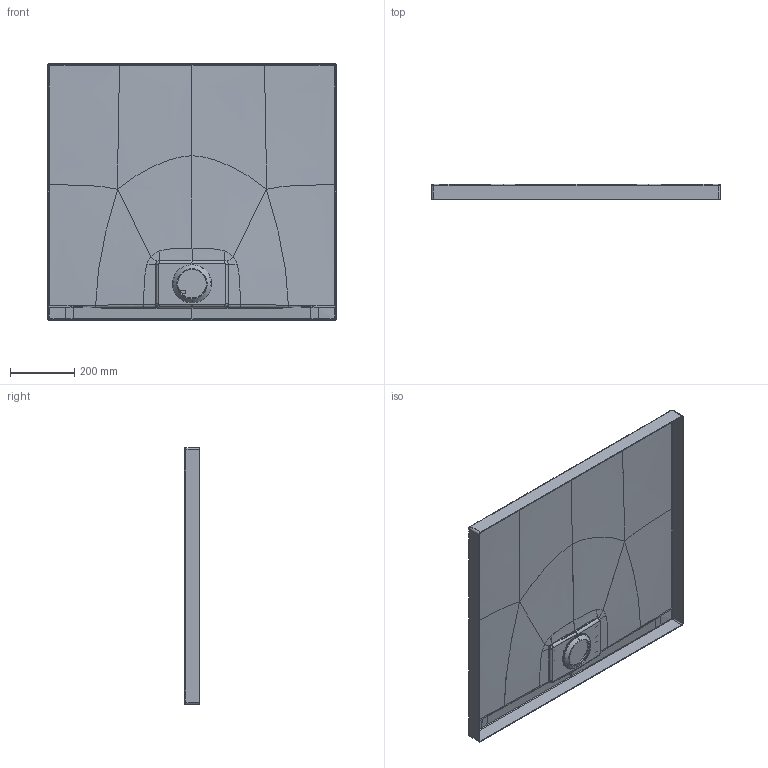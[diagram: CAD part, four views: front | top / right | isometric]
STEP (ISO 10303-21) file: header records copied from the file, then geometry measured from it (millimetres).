
FILE_DESCRIPTION((''),'2;1');
FILE_NAME('UDA9080ARA248_ARCHITECTURA_META_ASM','2022-07-12T16:02:53',('GrootJ'),('Villeroy & Boch Wellness bv'),'CREO PARAMETRIC BY PTC INC, 2020454','CREO PARAMETRIC BY PTC INC, 2020454','');
FILE_SCHEMA(('CONFIG_CONTROL_DESIGN'));
Products named in the file (6): G0500027_22; G0500024_69; G0500026_ASM_11_ASM; METALRIM_COVER_GEPLAATST120722_ASM; METALRIM-LOGO_12072022; UDA9080ARA248_ARCHITECTURA_META_ASM
Assembly tree (5 placements, depth 4):
  UDA9080ARA248_ARCHITECTURA_META_ASM
    METALRIM_COVER_GEPLAATST120722_ASM
      G0500026_ASM_11_ASM
        G0500027_22
        G0500024_69
    METALRIM-LOGO_12072022
Bounding box: 900 x 48 x 800 mm (x, y, z)
Volume: 119920.3 mm3; surface area: 1851430.2 mm2
Topology: 30 solids, 33 shells, 1185 faces, 3082 edges, 1926 vertices
Faces by surface type: plane 422, extrusion 241, bspline 177, cylinder 173, cone 114, sphere 36, torus 22
Entity records: 50424 total; most frequent: CARTESIAN_POINT 24269, ORIENTED_EDGE 6116, DIRECTION 4058, EDGE_CURVE 3063, VERTEX_POINT 1928, VECTOR 1556, B_SPLINE_CURVE_WITH_KNOTS 1519, LINE 1315
